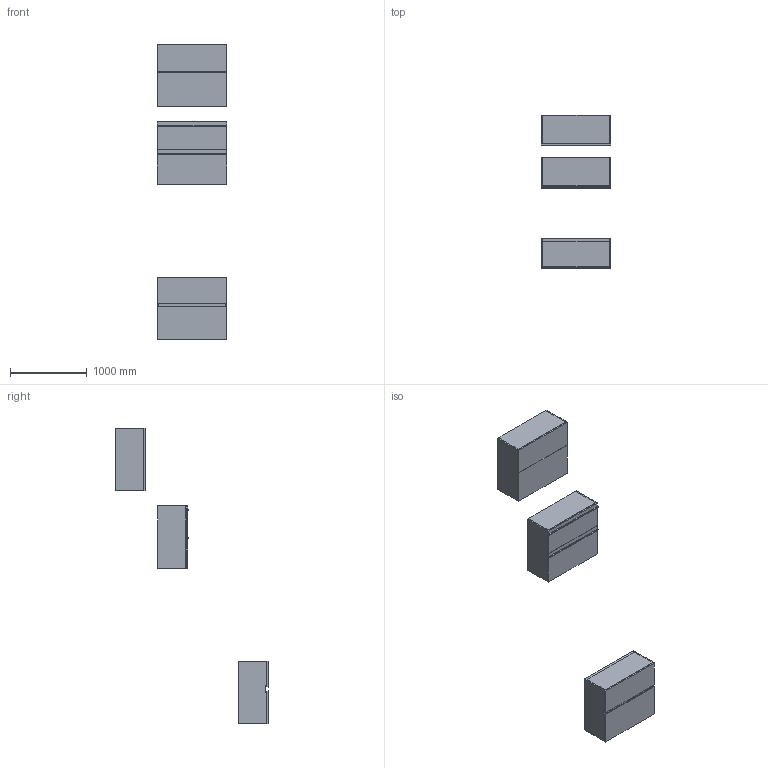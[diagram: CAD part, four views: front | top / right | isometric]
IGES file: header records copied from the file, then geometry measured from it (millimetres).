
Start section: Data from Parasolid IGES Translator 19.0.9, Copyright(c) 2006 Siemens PL M Software. All Rights Reserved.
Global section: file name: noorth-SI-H 81,2 D 38,8 W 90_8686.igs; native system: By Siemens PLM Incorporated; preprocessor: XPlus GENERIC/IGES 19.0.9; author: Noname; organization: Noname; date: 20200601.123428; units: metre
Bounding box: 900 x 1986 x 3842 mm (x, y, z)
Volume: 108058461.9 mm3; surface area: 17017640.2 mm2
Topology: 25 solids, 25 shells, 254 faces, 556 edges, 332 vertices
Faces by surface type: plane 170, extrusion 36, bspline 32, cylinder 16
